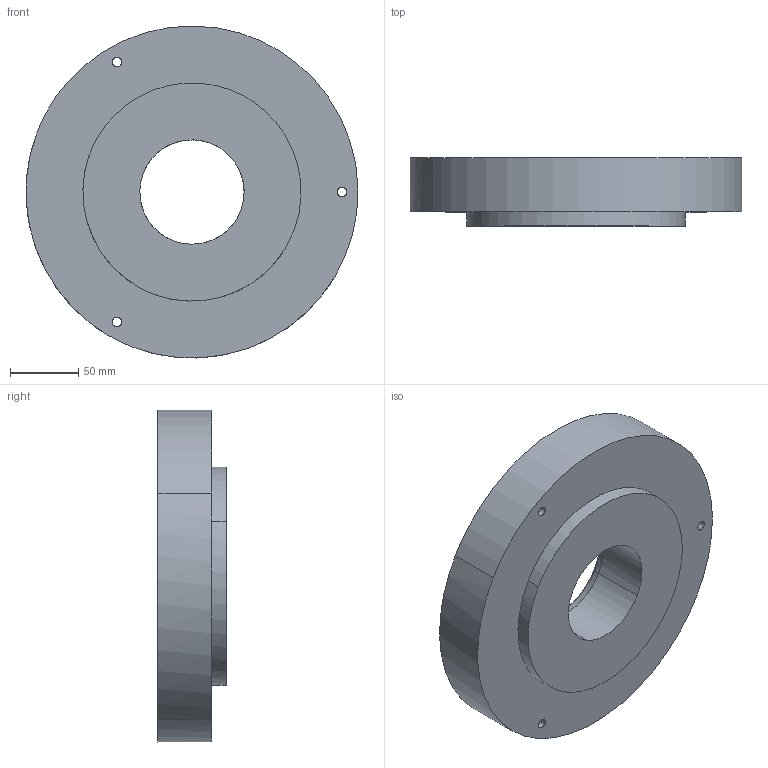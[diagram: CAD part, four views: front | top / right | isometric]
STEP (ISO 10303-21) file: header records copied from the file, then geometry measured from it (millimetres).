
FILE_DESCRIPTION(/* description */ (''),/* implementation_level */ '2;1');
FILE_NAME(/* name */ 'component4',/* time_stamp */ '2006-02-17T14:11:18+01:00',/* author */ (''),/* organization */ (''),/* preprocessor_version */ 'ST-DEVELOPER v8',/* originating_system */ '',/* authorisation */ '');
FILE_SCHEMA (('CONFIG_CONTROL_DESIGN'));
Length unit declared in the file: millimetre
Products named in the file (1): 4
Bounding box: 243.43 x 50 x 243.46 mm (x, y, z)
Volume: 1799683.5 mm3; surface area: 140499.9 mm2
Topology: 1 solids, 7 shells, 89 faces, 229 edges, 146 vertices
Faces by surface type: bspline 89
Entity records: 2943 total; most frequent: CARTESIAN_POINT 1678, ORIENTED_EDGE 404, EDGE_CURVE 217, VERTEX_POINT 146, EDGE_LOOP 113, ADVANCED_FACE 89, FACE_OUTER_BOUND 89, B_SPLINE_CURVE_WITH_KNOTS 75
